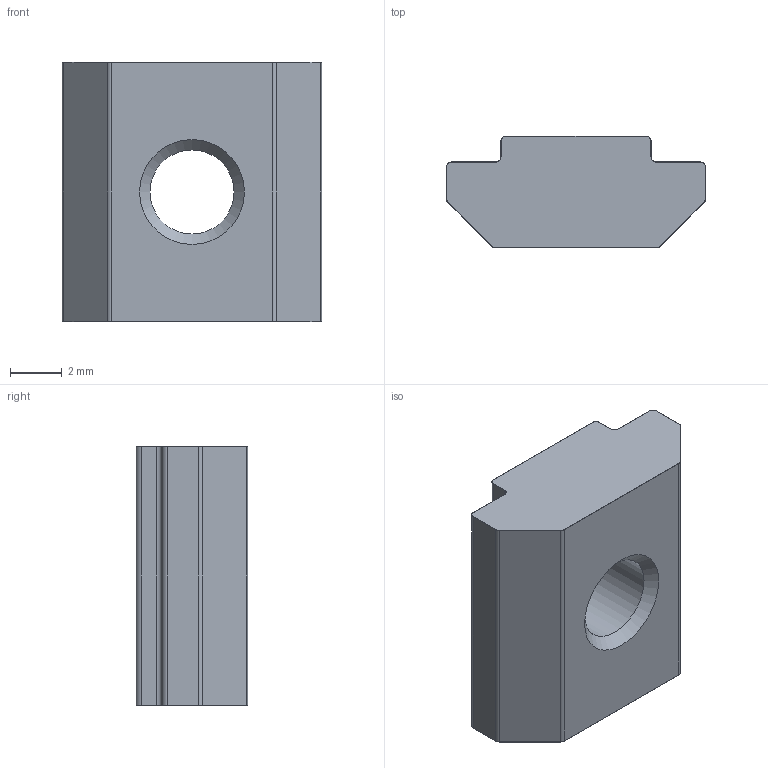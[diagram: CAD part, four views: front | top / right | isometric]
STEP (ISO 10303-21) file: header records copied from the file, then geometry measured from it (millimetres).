
FILE_DESCRIPTION(('FreeCAD Model'),'2;1');
FILE_NAME('Open CASCADE Shape Model','2021-05-04T11:15:18',('Author'),( ''),'Open CASCADE STEP processor 7.5','FreeCAD','Unknown');
FILE_SCHEMA(('AUTOMOTIVE_DESIGN { 1 0 10303 214 1 1 1 1 }'));
Length unit declared in the file: millimetre
Products named in the file (1): S206NS4SCH
Bounding box: 10 x 4.3 x 10 mm (x, y, z)
Volume: 318.1 mm3; surface area: 353.2 mm2
Topology: 1 solids, 1 shells, 65 faces, 148 edges, 85 vertices
Faces by surface type: cylinder 31, torus 20, plane 12, cone 2
Full cylindrical faces by diameter (mm): 3.242 x1
Entity records: 3796 total; most frequent: CARTESIAN_POINT 658, DIRECTION 648, LINE 334, VECTOR 334, ORIENTED_EDGE 296, PCURVE 296, DEFINITIONAL_REPRESENTATION 296, AXIS2_PLACEMENT_3D 151
